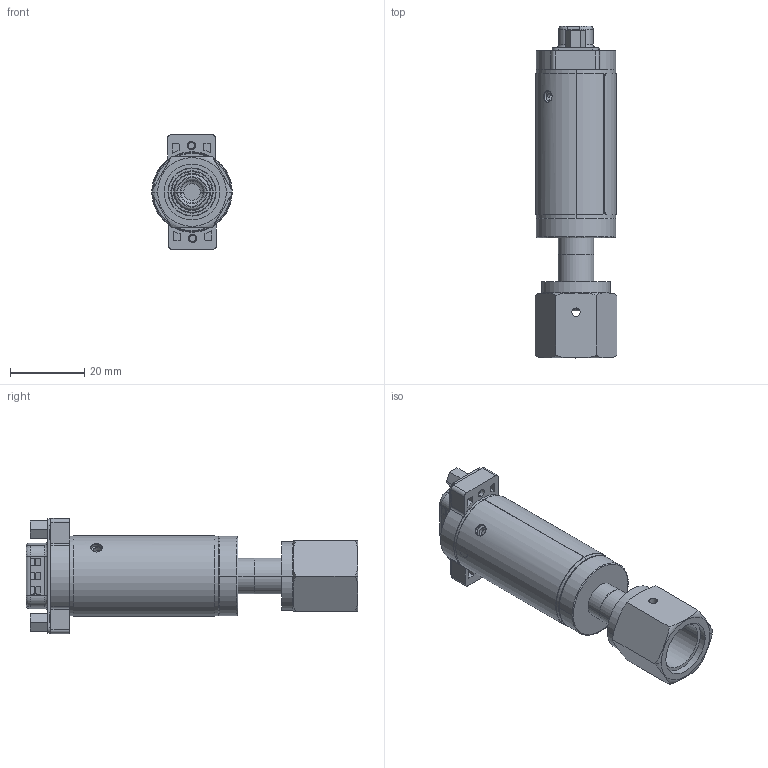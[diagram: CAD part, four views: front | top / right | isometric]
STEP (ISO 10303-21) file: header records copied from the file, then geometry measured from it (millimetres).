
FILE_DESCRIPTION (( 'STEP AP203' ), '1' );
FILE_NAME ('GFD-K-SF.STEP', '2026-08-19T14:31:53', ( '' ), ( '' ), 'SwSTEP 2.0', 'SolidWorks 2023', '' );
FILE_SCHEMA (( 'CONFIG_CONTROL_DESIGN' ));
Length unit declared in the file: inch
Products named in the file (6): 333124_A333124002; GFD-K-SF; ME131190; C17417; K; 332772
Assembly tree (5 placements, depth 2):
  GFD-K-SF
    332772
    C17417
    K
    333124_A333124002
    ME131190
Bounding box: 22 x 89.5 x 31.12 mm (x, y, z)
Volume: 15092.5 mm3; surface area: 22495.4 mm2
Topology: 11 solids, 12 shells, 879 faces, 2231 edges, 1422 vertices
Faces by surface type: cylinder 353, plane 316, bspline 108, cone 82, torus 15, sphere 5
Entity records: 31970 total; most frequent: CARTESIAN_POINT 10694, ORIENTED_EDGE 4446, DIRECTION 4167, EDGE_CURVE 2223, AXIS2_PLACEMENT_3D 1568, VERTEX_POINT 1422, LINE 1031, VECTOR 1031
